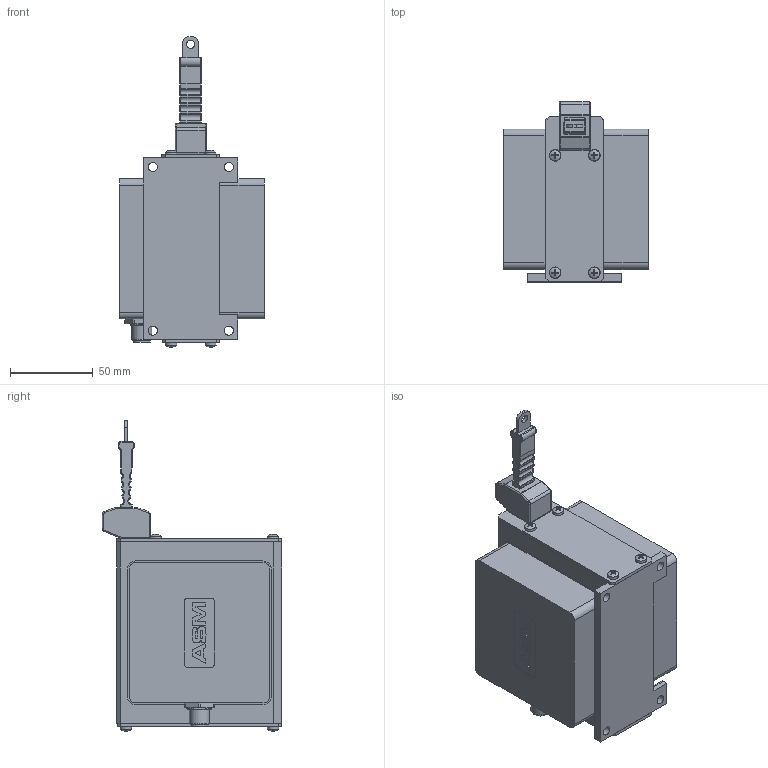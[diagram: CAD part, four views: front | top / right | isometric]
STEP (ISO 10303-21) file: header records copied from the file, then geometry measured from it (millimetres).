
FILE_DESCRIPTION((''),'2;1');
FILE_NAME('K:\Daten\8000.stp','2013-03-19T15:57:20',('welter'),(''),'Autodesk Inventor 2008','Autodesk Inventor 2008','');
FILE_SCHEMA(('AUTOMOTIVE_DESIGN { 1 0 10303 214 1 1 1 1 }'));
Length unit declared in the file: millimetre
Products named in the file (1): 1
Bounding box: 87.7 x 108.9 x 187.88 mm (x, y, z)
Volume: 800493.2 mm3; surface area: 64213.1 mm2
Topology: 5 solids, 5 shells, 599 faces, 1496 edges, 910 vertices
Faces by surface type: plane 295, bspline 122, cylinder 117, sphere 47, cone 12, torus 6
Full cylindrical faces by diameter (mm): 1 x5, 5.5 x2, 8 x3, 8.3 x1, 9.55 x1, 10.4 x1, 12 x1
Entity records: 21196 total; most frequent: CARTESIAN_POINT 6892, ORIENTED_EDGE 2852, DIRECTION 2752, EDGE_CURVE 1426, AXIS2_PLACEMENT_3D 989, VERTEX_POINT 899, VECTOR 774, LINE 774
